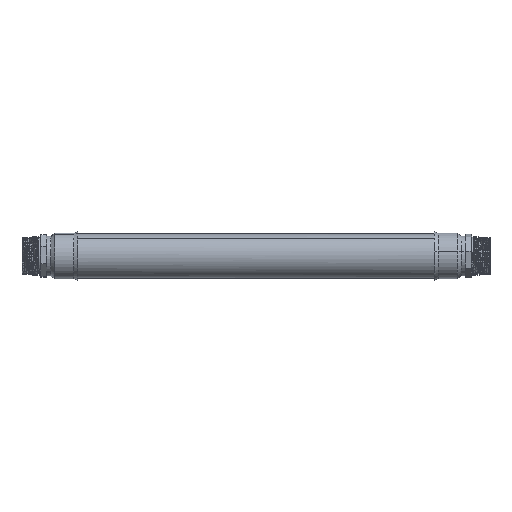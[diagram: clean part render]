
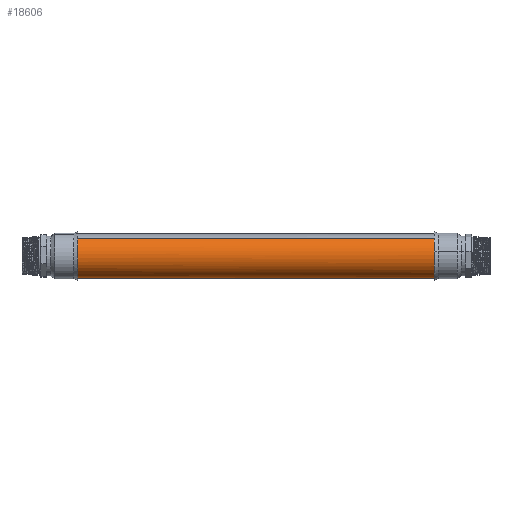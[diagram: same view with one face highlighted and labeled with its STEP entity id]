
A CAD part, front view. The second image highlights one B-rep face of the part: STEP entity #18606.
In plain terms, the highlighted cylindrical face has radius 28 mm (diameter 56 mm), a partial arc.
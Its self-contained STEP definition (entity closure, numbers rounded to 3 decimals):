
#3377 = CARTESIAN_POINT ( 'NONE',  ( -281.344, 0., 71.953 ) ) ;
#3378 = DIRECTION ( 'NONE',  ( 1., 0., 0. ) ) ;
#3379 = DIRECTION ( 'NONE',  ( 0., -1., 0. ) ) ;
#5520 = CARTESIAN_POINT ( 'NONE',  ( -281.344, 0., 71.953 ) ) ;
#5521 = DIRECTION ( 'NONE',  ( 1., 0., 0. ) ) ;
#5522 = DIRECTION ( 'NONE',  ( 0., -1., 0. ) ) ;
#7776 = CARTESIAN_POINT ( 'NONE',  ( -731.772, 0., 71.953 ) ) ;
#7777 = DIRECTION ( 'NONE',  ( 1., 0., 0. ) ) ;
#7778 = DIRECTION ( 'NONE',  ( 0., 0., -1. ) ) ;
#9132 = CIRCLE ( 'NONE', #9136, 28. ) ;
#9136 = AXIS2_PLACEMENT_3D ( 'NONE', #5520, #5521, #5522 ) ;
#9174 = CIRCLE ( 'NONE', #9177, 28. ) ;
#9177 = AXIS2_PLACEMENT_3D ( 'NONE', #3377, #3378, #3379 ) ;
#9209 = CIRCLE ( 'NONE', #9215, 28. ) ;
#9215 = AXIS2_PLACEMENT_3D ( 'NONE', #7776, #7777, #7778 ) ;
#10069 = EDGE_CURVE ( 'NONE', #14866, #14764, #9132, .T. ) ;
#10767 = EDGE_CURVE ( 'NONE', #14777, #14866, #9174, .T. ) ;
#10807 = EDGE_CURVE ( 'NONE', #14770, #14870, #9209, .T. ) ;
#14761 = VERTEX_POINT ( 'NONE', #16803 ) ;
#14764 = VERTEX_POINT ( 'NONE', #16760 ) ;
#14770 = VERTEX_POINT ( 'NONE', #16810 ) ;
#14777 = VERTEX_POINT ( 'NONE', #16817 ) ;
#14866 = VERTEX_POINT ( 'NONE', #16906 ) ;
#14870 = VERTEX_POINT ( 'NONE', #16910 ) ;
#15118 = ORIENTED_EDGE ( 'NONE', *, *, #18597, .F. ) ;
#15119 = ORIENTED_EDGE ( 'NONE', *, *, #10807, .T. ) ;
#15120 = ORIENTED_EDGE ( 'NONE', *, *, #18591, .T. ) ;
#15121 = ORIENTED_EDGE ( 'NONE', *, *, #18603, .T. ) ;
#15122 = ORIENTED_EDGE ( 'NONE', *, *, #10069, .F. ) ;
#15123 = ORIENTED_EDGE ( 'NONE', *, *, #10767, .F. ) ;
#15232 = EDGE_LOOP ( 'NONE', ( #15118, #15119, #15120, #15121, #15122, #15123 ) ) ;
#16328 = CARTESIAN_POINT ( 'NONE',  ( -731.772, 0., 71.953 ) ) ;
#16329 = DIRECTION ( 'NONE',  ( 1., 0., 0. ) ) ;
#16330 = DIRECTION ( 'NONE',  ( 0., 0., -1. ) ) ;
#16342 = CARTESIAN_POINT ( 'NONE',  ( -759.513, -17.165, 94.074 ) ) ;
#16346 = LINE ( 'NONE', #16342, #16490 ) ;
#16350 = DIRECTION ( 'NONE',  ( 1., 0., 0. ) ) ;
#16358 = LINE ( 'NONE', #16359, #16499 ) ;
#16359 = CARTESIAN_POINT ( 'NONE',  ( -759.513, 17.165, 49.831 ) ) ;
#16368 = DIRECTION ( 'NONE',  ( 1., 0., 0. ) ) ;
#16369 = FACE_OUTER_BOUND ( 'NONE', #15232, .T. ) ;
#16375 = CYLINDRICAL_SURFACE ( 'NONE', #16506, 28. ) ;
#16376 = CARTESIAN_POINT ( 'NONE',  ( -759.513, 0., 71.953 ) ) ;
#16377 = DIRECTION ( 'NONE',  ( 1., 0., 0. ) ) ;
#16378 = DIRECTION ( 'NONE',  ( 0., 0.613, -0.79 ) ) ;
#16483 = CIRCLE ( 'NONE', #16484, 28. ) ;
#16484 = AXIS2_PLACEMENT_3D ( 'NONE', #16328, #16329, #16330 ) ;
#16490 = VECTOR ( 'NONE', #16350, 1000. ) ;
#16499 = VECTOR ( 'NONE', #16368, 1000. ) ;
#16506 = AXIS2_PLACEMENT_3D ( 'NONE', #16376, #16377, #16378 ) ;
#16760 = CARTESIAN_POINT ( 'NONE',  ( -281.344, 17.165, 49.831 ) ) ;
#16803 = CARTESIAN_POINT ( 'NONE',  ( -731.772, 17.165, 49.831 ) ) ;
#16810 = CARTESIAN_POINT ( 'NONE',  ( -731.772, -17.165, 94.074 ) ) ;
#16817 = CARTESIAN_POINT ( 'NONE',  ( -281.344, -17.165, 94.074 ) ) ;
#16906 = CARTESIAN_POINT ( 'NONE',  ( -281.344, -27.388, 77.776 ) ) ;
#16910 = CARTESIAN_POINT ( 'NONE',  ( -731.772, 9.431, 45.589 ) ) ;
#18591 = EDGE_CURVE ( 'NONE', #14870, #14761, #16483, .T. ) ;
#18597 = EDGE_CURVE ( 'NONE', #14770, #14777, #16346, .T. ) ;
#18603 = EDGE_CURVE ( 'NONE', #14761, #14764, #16358, .T. ) ;
#18606 = ADVANCED_FACE ( 'NONE', ( #16369 ), #16375, .T. ) ;
